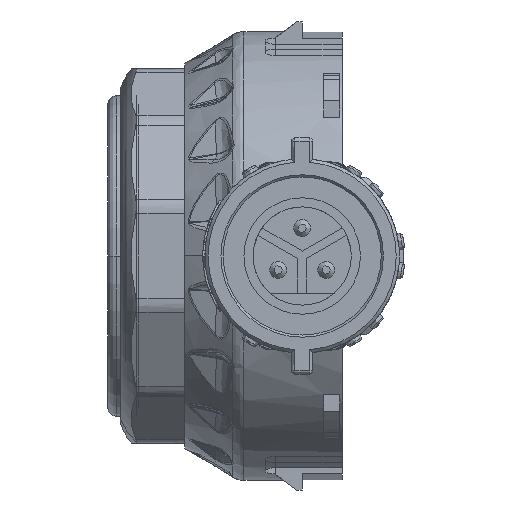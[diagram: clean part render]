
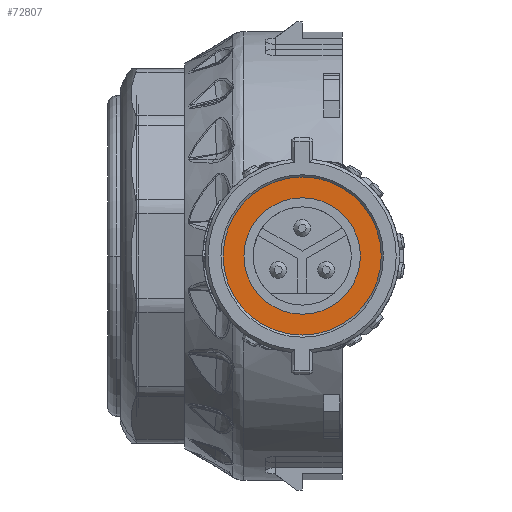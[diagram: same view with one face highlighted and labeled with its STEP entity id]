
A CAD part, left-side view. The second image highlights one B-rep face of the part: STEP entity #72807.
In plain terms, the highlighted planar face has unit normal (-1, 0, 0).
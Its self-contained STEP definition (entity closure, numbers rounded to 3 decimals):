
#2383 = EDGE_CURVE ( 'NONE', #38285, #90178, #84254, .T. ) ;
#2744 = DIRECTION ( 'NONE',  ( 0., 0., -1. ) ) ;
#3652 = VERTEX_POINT ( 'NONE', #83228 ) ;
#5077 = CIRCLE ( 'NONE', #41259, 5.45 ) ;
#13841 = CARTESIAN_POINT ( 'NONE',  ( 6.89, 0., -5.45 ) ) ;
#17169 = DIRECTION ( 'NONE',  ( 0., -1., 0. ) ) ;
#24394 = CARTESIAN_POINT ( 'NONE',  ( 6.89, 0., 0. ) ) ;
#25872 = EDGE_CURVE ( 'NONE', #90178, #38285, #5077, .T. ) ;
#31629 = ORIENTED_EDGE ( 'NONE', *, *, #77337, .F. ) ;
#31774 = CARTESIAN_POINT ( 'NONE',  ( 6.89, 0., 0. ) ) ;
#33099 = AXIS2_PLACEMENT_3D ( 'NONE', #92619, #70071, #34743 ) ;
#34743 = DIRECTION ( 'NONE',  ( 0., 0., 1. ) ) ;
#36347 = PLANE ( 'NONE',  #55382 ) ;
#38285 = VERTEX_POINT ( 'NONE', #54322 ) ;
#39825 = DIRECTION ( 'NONE',  ( 1., 0., 0. ) ) ;
#39913 = EDGE_LOOP ( 'NONE', ( #73469, #77208 ) ) ;
#41259 = AXIS2_PLACEMENT_3D ( 'NONE', #67287, #68211, #2744 ) ;
#43452 = FACE_OUTER_BOUND ( 'NONE', #44892, .T. ) ;
#44892 = EDGE_LOOP ( 'NONE', ( #31629 ) ) ;
#45329 = CIRCLE ( 'NONE', #79864, 7.4 ) ;
#46545 = FACE_BOUND ( 'NONE', #39913, .T. ) ;
#54322 = CARTESIAN_POINT ( 'NONE',  ( 6.89, 0., 5.45 ) ) ;
#55382 = AXIS2_PLACEMENT_3D ( 'NONE', #24394, #72591, #82281 ) ;
#67287 = CARTESIAN_POINT ( 'NONE',  ( 6.89, 0., 0. ) ) ;
#68211 = DIRECTION ( 'NONE',  ( -1., 0., 0. ) ) ;
#70071 = DIRECTION ( 'NONE',  ( -1., 0., 0. ) ) ;
#72591 = DIRECTION ( 'NONE',  ( -1., 0., 0. ) ) ;
#72807 = ADVANCED_FACE ( 'NONE', ( #43452, #46545 ), #36347, .T. ) ;
#73469 = ORIENTED_EDGE ( 'NONE', *, *, #25872, .F. ) ;
#77208 = ORIENTED_EDGE ( 'NONE', *, *, #2383, .F. ) ;
#77337 = EDGE_CURVE ( 'NONE', #3652, #3652, #45329, .T. ) ;
#79864 = AXIS2_PLACEMENT_3D ( 'NONE', #31774, #39825, #17169 ) ;
#82281 = DIRECTION ( 'NONE',  ( 0., -1., 0. ) ) ;
#83228 = CARTESIAN_POINT ( 'NONE',  ( 6.89, -7.4, 0. ) ) ;
#84254 = CIRCLE ( 'NONE', #33099, 5.45 ) ;
#90178 = VERTEX_POINT ( 'NONE', #13841 ) ;
#92619 = CARTESIAN_POINT ( 'NONE',  ( 6.89, 0., 0. ) ) ;
